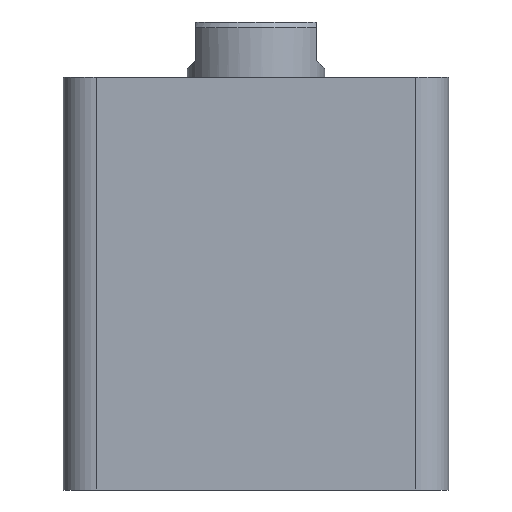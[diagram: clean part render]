
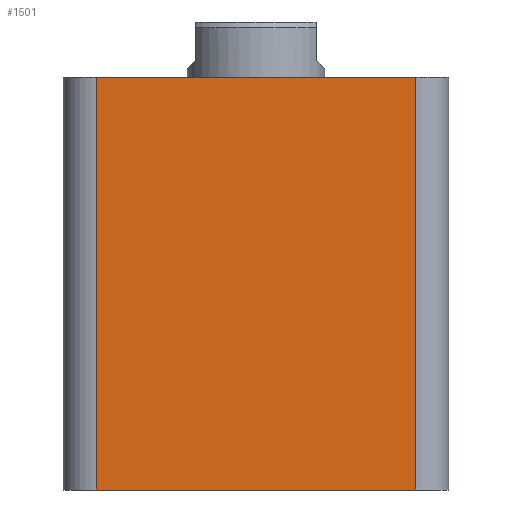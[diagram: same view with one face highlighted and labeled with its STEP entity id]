
A CAD part, front view. The second image highlights one B-rep face of the part: STEP entity #1501.
In plain terms, the highlighted planar face has unit normal (0, -1, 0).
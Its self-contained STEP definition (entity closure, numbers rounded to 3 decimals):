
#65 = FACE_OUTER_BOUND ( 'NONE', #1055, .T. ) ;
#461 = VECTOR ( 'NONE', #1638, 1000. ) ;
#469 = VECTOR ( 'NONE', #1640, 1000. ) ;
#470 = LINE ( 'NONE', #1639, #461 ) ;
#472 = VECTOR ( 'NONE', #1641, 1000. ) ;
#475 = VECTOR ( 'NONE', #1643, 1000. ) ;
#477 = LINE ( 'NONE', #1642, #472 ) ;
#480 = LINE ( 'NONE', #1540, #475 ) ;
#486 = LINE ( 'NONE', #1584, #469 ) ;
#594 = ORIENTED_EDGE ( 'NONE', *, *, #882, .T. ) ;
#595 = ORIENTED_EDGE ( 'NONE', *, *, #881, .T. ) ;
#612 = ORIENTED_EDGE ( 'NONE', *, *, #880, .T. ) ;
#613 = ORIENTED_EDGE ( 'NONE', *, *, #879, .F. ) ;
#879 = EDGE_CURVE ( 'NONE', #1194, #1255, #480, .T. ) ;
#880 = EDGE_CURVE ( 'NONE', #1194, #1203, #477, .T. ) ;
#881 = EDGE_CURVE ( 'NONE', #1203, #1201, #486, .T. ) ;
#882 = EDGE_CURVE ( 'NONE', #1201, #1255, #470, .T. ) ;
#1017 = AXIS2_PLACEMENT_3D ( 'NONE', #2179, #2174, #2172 ) ;
#1055 = EDGE_LOOP ( 'NONE', ( #613, #612, #595, #594 ) ) ;
#1194 = VERTEX_POINT ( 'NONE', #2124 ) ;
#1201 = VERTEX_POINT ( 'NONE', #2600 ) ;
#1203 = VERTEX_POINT ( 'NONE', #2598 ) ;
#1255 = VERTEX_POINT ( 'NONE', #2544 ) ;
#1501 = ADVANCED_FACE ( 'NONE', ( #65 ), #2176, .F. ) ;
#1540 = CARTESIAN_POINT ( 'NONE',  ( -35., -35., 75. ) ) ;
#1584 = CARTESIAN_POINT ( 'NONE',  ( -35., -35., 0. ) ) ;
#1638 = DIRECTION ( 'NONE',  ( 0., 0., 1. ) ) ;
#1639 = CARTESIAN_POINT ( 'NONE',  ( 29., -35., 75. ) ) ;
#1640 = DIRECTION ( 'NONE',  ( 1., 0., 0. ) ) ;
#1641 = DIRECTION ( 'NONE',  ( 0., 0., -1. ) ) ;
#1642 = CARTESIAN_POINT ( 'NONE',  ( -29., -35., 75. ) ) ;
#1643 = DIRECTION ( 'NONE',  ( 1., 0., 0. ) ) ;
#2124 = CARTESIAN_POINT ( 'NONE',  ( -29., -35., 75. ) ) ;
#2172 = DIRECTION ( 'NONE',  ( 0., 0., 1. ) ) ;
#2174 = DIRECTION ( 'NONE',  ( 0., 1., 0. ) ) ;
#2176 = PLANE ( 'NONE',  #1017 ) ;
#2179 = CARTESIAN_POINT ( 'NONE',  ( -35., -35., 75. ) ) ;
#2544 = CARTESIAN_POINT ( 'NONE',  ( 29., -35., 75. ) ) ;
#2598 = CARTESIAN_POINT ( 'NONE',  ( -29., -35., 0. ) ) ;
#2600 = CARTESIAN_POINT ( 'NONE',  ( 29., -35., 0. ) ) ;
